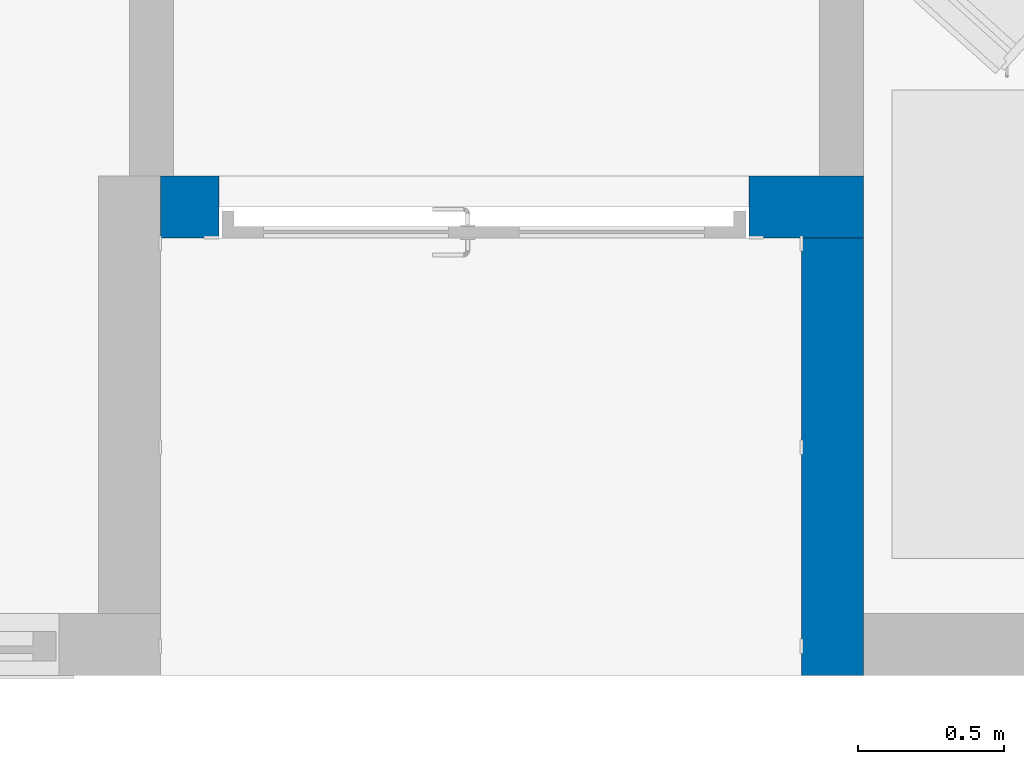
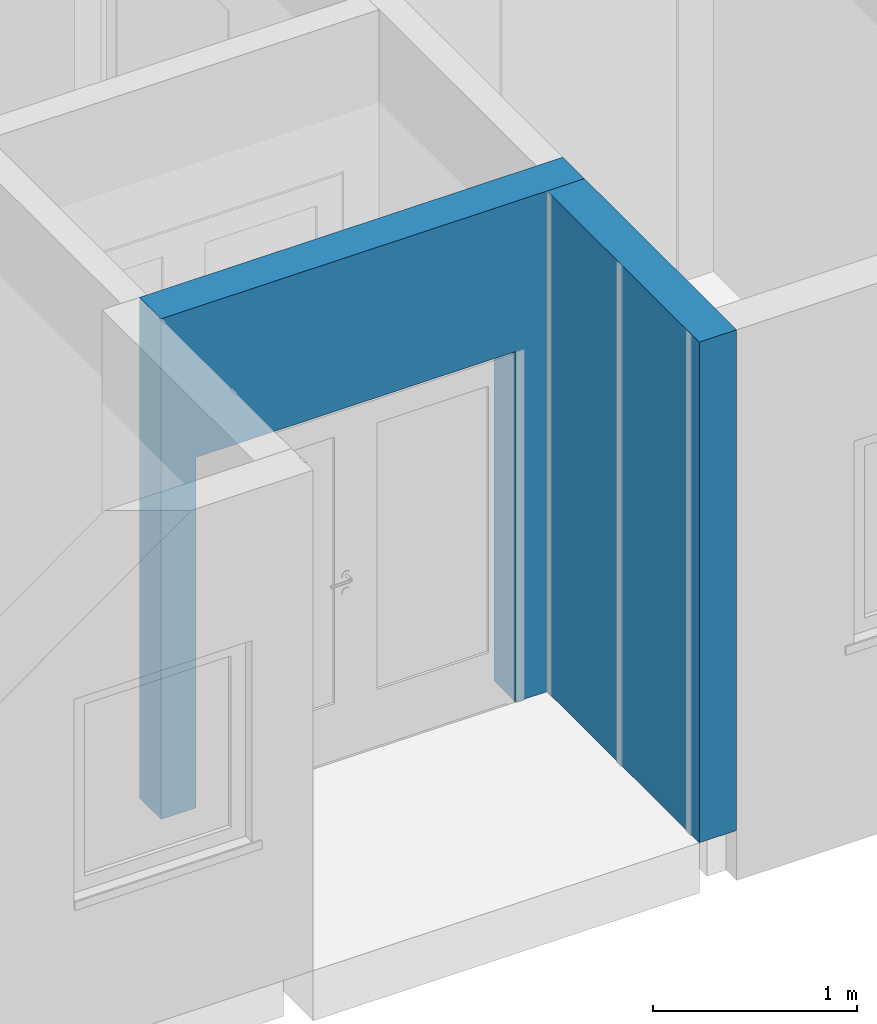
# One storey, part 2 of 58: 2 walls, 1 opening.
"""IFC2X3 building model written with IfcOpenShell, lengths in millimetres."""

from ifc_helpers import new_model, entity, si_unit, converted_unit, derived_unit, direction, frame, frame_2d, origin, place, context, subcontext, project, spatial, polyline, rectangle, extrude, clip, bounded_halfspace, material, layer, layer_set, layer_usage, type_object, element, save


model = new_model("IFC2X3")

# Units and contexts
model_context = context("Model", 3, precision=0.01, world=origin(), true_north=direction((0.7716245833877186, 0.6360782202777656)))
body_context = subcontext(model_context, "Body", "Model", "MODEL_VIEW")
ifc_project = project(units=[si_unit("LENGTHUNIT", "METRE", prefix="MILLI"), si_unit("AREAUNIT", "SQUARE_METRE"), converted_unit("PLANEANGLEUNIT", "DEGREE", entity("IfcPlaneAngleMeasure", 0.017453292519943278), si_unit("PLANEANGLEUNIT", "RADIAN"), dimensions=[0, 0, 0, 0, 0, 0, 0]), derived_unit("THERMALTRANSMITTANCEUNIT", [(si_unit("MASSUNIT", "GRAM", prefix="KILO"), 1), (si_unit("THERMODYNAMICTEMPERATUREUNIT", "KELVIN"), -1), (si_unit("TIMEUNIT", "SECOND"), -3)])], contexts=[model_context])

# Site, building, storey
site_placement = place(None, origin())
site = spatial("IfcSite", under=ifc_project, at=site_placement, Name="Default", CompositionType="ELEMENT")
building_placement = place(site_placement, origin())
building = spatial("IfcBuilding", under=site, at=building_placement, CompositionType="ELEMENT")
storey_placement = place(building_placement, frame((0.0, 0.0, 31140.0)))
storey = spatial("IfcBuildingStorey", under=building, at=storey_placement, Name="PLAN U1", CompositionType="ELEMENT", Elevation=31140.000000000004)

# Wall, opening
ifc_material_1 = material(Name="Beige Fasadeplater")
ifc_layer_1 = layer(ifc_material_1, 10.0)
ifc_material_2 = material(Name="Eksist. vegg")
ifc_layer_2 = layer(ifc_material_2, 190.00000000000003)
ifc_material_3 = material(Name="Gips")
ifc_layer_3 = layer(ifc_material_3, 12.0)
ifc_layer_set = layer_set([ifc_layer_1, ifc_layer_2, ifc_layer_3], Name="Basic Wall:230 Eksist. yttervegg 200 mm")
ifc_layer_usage_1 = layer_usage(ifc_layer_set, "AXIS2", "POSITIVE", -106.0)
wall_type = type_object("IfcWallType", Name="Basic Wall:230 Eksist. yttervegg 200 mm", PredefinedType="STANDARD", material=ifc_layer_set)
wall_1_placement = place(storey_placement, frame((261223.9244464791, 54915.25555007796, 0.0)))
wall_1 = element("IfcWallStandardCase", 1, at=wall_1_placement, inside=storey, type_object=wall_type, material=ifc_layer_usage_1, Name="Basic Wall:230 Eksist. yttervegg 200 mm", ObjectType="Basic Wall:230 Eksist. yttervegg 200 mm", context=body_context, shape_type="SweptSolid", body=[
    extrude(rectangle(XDim=2399.999999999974, YDim=212.00000000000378, at=frame_2d((1199.999999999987, 0.0), x_axis=(1.0, 0.0))), origin(), (0.0, 0.0, 1.0), 2999.9999999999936),
])
opening_placement = place(wall_1_placement, frame((2009.0, 106.0, 0.0)))
element("IfcOpeningElement", 2, at=opening_placement, cuts=wall_1, Name="Likefløyet:234 Utvendig 18x21M - Glass:1", ObjectType="Opening", context=body_context, shape_type="SweptSolid", body=[
    extrude(rectangle(XDim=2100.000000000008, YDim=1810.0000000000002, at=frame_2d((1050.0000000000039, 905.0000000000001), x_axis=(1.0, 0.0))), frame((0.0, 0.0, 0.0), z_axis=(0.0, -1.0, 0.0), x_axis=(0.0, 0.0, 1.0)), (0.0, 0.0, 1.0), 212.0),
])

# Wall
ifc_layer_usage_2 = layer_usage(ifc_layer_set, "AXIS2", "POSITIVE", -106.0)
wall_2_placement = place(storey_placement, frame((263517.92444647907, 54809.25555007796, 0.0), z_axis=(0.0, 0.0, 1.0), x_axis=(0.0, -1.0, 0.0)))
element("IfcWallStandardCase", 3, at=wall_2_placement, inside=storey, type_object=wall_type, material=ifc_layer_usage_2, Name="Basic Wall:230 Eksist. yttervegg 200 mm", ObjectType="Basic Wall:230 Eksist. yttervegg 200 mm", context=body_context, shape_type="Clipping", body=[
    clip(extrude(rectangle(XDim=1494.000000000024, YDim=212.00000000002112, at=frame_2d((747.000000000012, 0.0), x_axis=(-1.0, 0.0))), origin(), (0.0, 0.0, 1.0), 2999.9999999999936), bounded_halfspace(frame((0.0, -106.0, 3000.0), z_axis=(0.0, 0.0, -1.0), x_axis=(-1.0, 0.0, 0.0)), True, frame((0.0, -106.0, 3000.0)), polyline([(0.0, 0.0), (1388.0, 0.0), (1388.0, 212.0), (1282.0, 212.0), (0.0, 212.0), (0.0, 0.0)]))),
])

save(model, "model.ifc")
